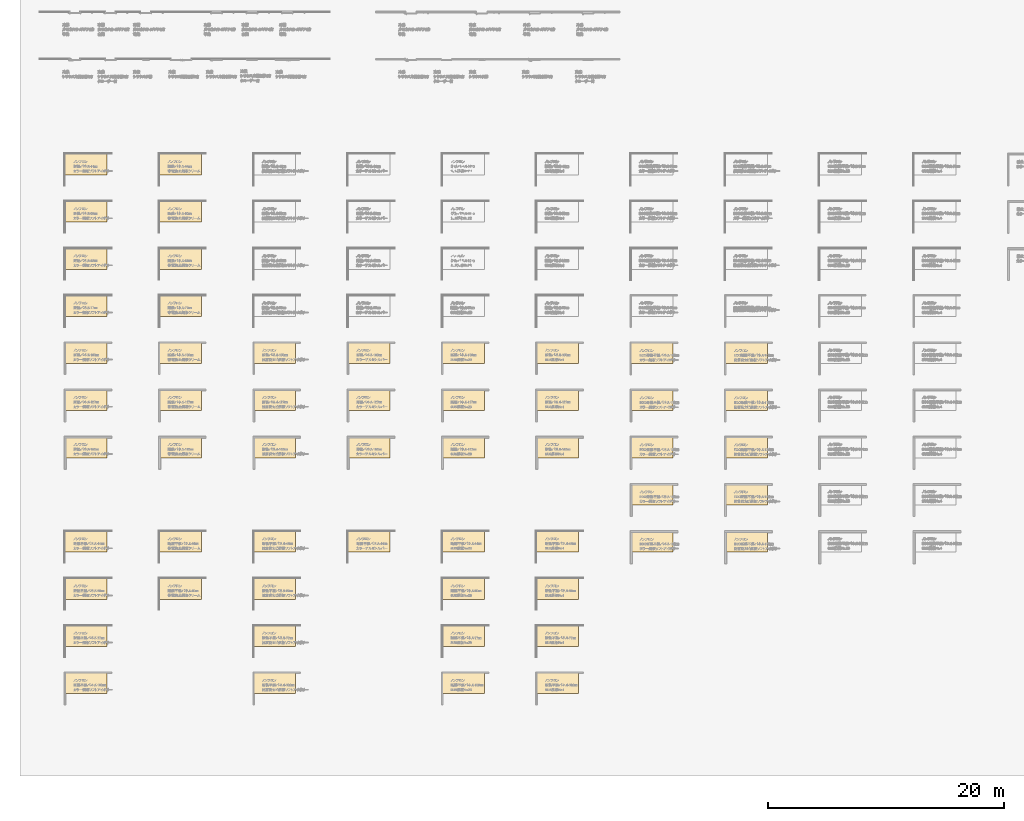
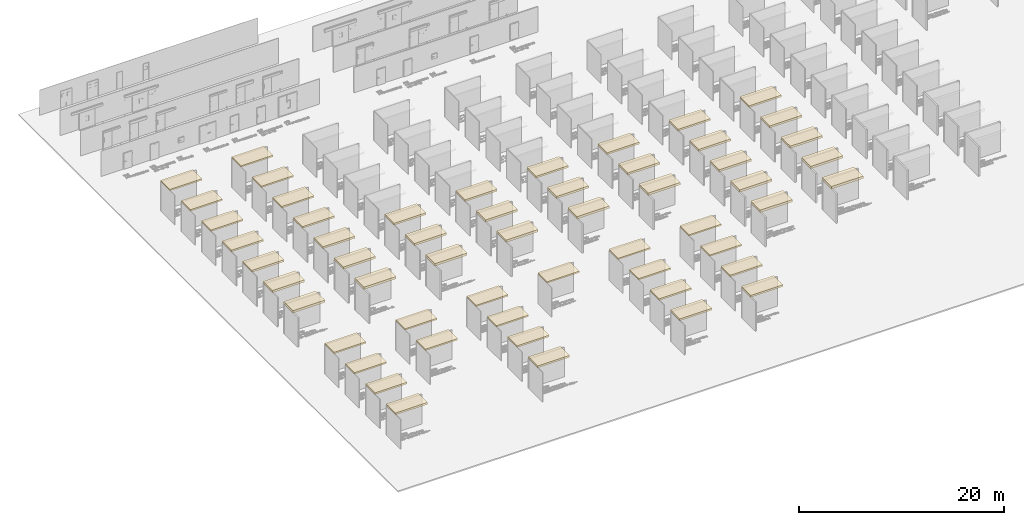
# One storey, part 8 of 16: 55 coverings.
"""IFC2X3 building model written with IfcOpenShell, lengths in millimetres."""

from ifc_helpers import new_model, entity, si_unit, converted_unit, derived_unit, direction, frame, frame_2d, origin, origin_2d_with_axis, place, context, subcontext, project, spatial, rectangle, extrude, material, layer, layer_set, layer_usage, type_object, element, save


model = new_model("IFC2X3")

# Units and contexts
model_context = context("Model", 3, precision=0.01, world=origin(), true_north=direction((6.123031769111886e-17, 1.0)))
body_context = subcontext(model_context, "Body", "Model", "MODEL_VIEW")
ifc_project = project(units=[si_unit("LENGTHUNIT", "METRE", prefix="MILLI"), si_unit("AREAUNIT", "SQUARE_METRE"), si_unit("VOLUMEUNIT", "CUBIC_METRE"), converted_unit("PLANEANGLEUNIT", "DEGREE", entity("IfcRatioMeasure", 0.017453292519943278), si_unit("PLANEANGLEUNIT", "RADIAN"), dimensions=[0, 0, 0, 0, 0, 0, 0]), si_unit("MASSUNIT", "GRAM", prefix="KILO"), derived_unit("MASSDENSITYUNIT", [(si_unit("MASSUNIT", "GRAM", prefix="KILO"), 1), (si_unit("LENGTHUNIT", "METRE"), -3)]), derived_unit("IONCONCENTRATIONUNIT", [(si_unit("MASSUNIT", "GRAM", prefix="KILO"), 1), (si_unit("LENGTHUNIT", "METRE"), -3)]), derived_unit("MOMENTOFINERTIAUNIT", [(si_unit("LENGTHUNIT", "METRE"), 4)]), si_unit("TIMEUNIT", "SECOND"), si_unit("FREQUENCYUNIT", "HERTZ"), si_unit("THERMODYNAMICTEMPERATUREUNIT", "DEGREE_CELSIUS"), derived_unit("THERMALTRANSMITTANCEUNIT", [(si_unit("MASSUNIT", "GRAM", prefix="KILO"), 1), (si_unit("THERMODYNAMICTEMPERATUREUNIT", "KELVIN"), -1), (si_unit("TIMEUNIT", "SECOND"), -3)]), derived_unit("THERMALCONDUCTANCEUNIT", [(si_unit("MASSUNIT", "GRAM", prefix="KILO"), 1), (si_unit("THERMODYNAMICTEMPERATUREUNIT", "KELVIN"), -1), (si_unit("TIMEUNIT", "SECOND"), -3), (si_unit("LENGTHUNIT", "METRE"), 1)]), derived_unit("VOLUMETRICFLOWRATEUNIT", [(si_unit("LENGTHUNIT", "METRE"), 3), (si_unit("TIMEUNIT", "SECOND"), -1)]), derived_unit("MASSFLOWRATEUNIT", [(si_unit("MASSUNIT", "GRAM", prefix="KILO"), 1), (si_unit("TIMEUNIT", "SECOND"), -1)]), derived_unit("ROTATIONALFREQUENCYUNIT", [(si_unit("TIMEUNIT", "SECOND"), -1)]), si_unit("ELECTRICCURRENTUNIT", "AMPERE"), si_unit("ELECTRICVOLTAGEUNIT", "VOLT"), si_unit("POWERUNIT", "WATT"), si_unit("FORCEUNIT", "NEWTON", prefix="KILO"), si_unit("ILLUMINANCEUNIT", "LUX"), si_unit("LUMINOUSFLUXUNIT", "LUMEN"), si_unit("LUMINOUSINTENSITYUNIT", "CANDELA"), derived_unit("USERDEFINED", [(si_unit("MASSUNIT", "GRAM", prefix="KILO"), -1), (si_unit("LENGTHUNIT", "METRE"), -2), (si_unit("TIMEUNIT", "SECOND"), 3), (si_unit("LUMINOUSFLUXUNIT", "LUMEN"), 1)]), derived_unit("USERDEFINED", [(si_unit("MASSUNIT", "GRAM", prefix="KILO"), 1), (si_unit("TIMEUNIT", "SECOND"), -3), (si_unit("LENGTHUNIT", "METRE"), 3), (si_unit("ELECTRICCURRENTUNIT", "AMPERE"), -2)]), derived_unit("SOUNDPOWERUNIT", [(si_unit("MASSUNIT", "GRAM", prefix="KILO"), 1), (si_unit("TIMEUNIT", "SECOND"), -3), (si_unit("LENGTHUNIT", "METRE"), 2)]), derived_unit("SOUNDPRESSUREUNIT", [(si_unit("MASSUNIT", "GRAM", prefix="KILO"), 1), (si_unit("LENGTHUNIT", "METRE"), -1), (si_unit("TIMEUNIT", "SECOND"), -2)]), derived_unit("LINEARVELOCITYUNIT", [(si_unit("LENGTHUNIT", "METRE"), 1), (si_unit("TIMEUNIT", "SECOND"), -1)]), si_unit("PRESSUREUNIT", "PASCAL"), derived_unit("USERDEFINED", [(si_unit("MASSUNIT", "GRAM", prefix="KILO"), 1), (si_unit("LENGTHUNIT", "METRE"), -2), (si_unit("TIMEUNIT", "SECOND"), -2)]), derived_unit("LINEARFORCEUNIT", [(si_unit("MASSUNIT", "GRAM", prefix="KILO"), 1), (si_unit("TIMEUNIT", "SECOND"), -2)]), derived_unit("PLANARFORCEUNIT", [(si_unit("MASSUNIT", "GRAM", prefix="KILO"), 1), (si_unit("LENGTHUNIT", "METRE"), -1), (si_unit("TIMEUNIT", "SECOND"), -2)]), derived_unit("SPECIFICHEATCAPACITYUNIT", [(si_unit("THERMODYNAMICTEMPERATUREUNIT", "KELVIN"), -1), (si_unit("LENGTHUNIT", "METRE"), 2), (si_unit("TIMEUNIT", "SECOND"), -2)]), derived_unit("HEATINGVALUEUNIT", [(si_unit("LENGTHUNIT", "METRE"), 2), (si_unit("TIMEUNIT", "SECOND"), -2)]), derived_unit("VAPORPERMEABILITYUNIT", [(si_unit("LENGTHUNIT", "METRE"), -1), (si_unit("TIMEUNIT", "SECOND"), 1)]), derived_unit("DYNAMICVISCOSITYUNIT", [(si_unit("MASSUNIT", "GRAM", prefix="KILO"), 1), (si_unit("TIMEUNIT", "SECOND"), -1), (si_unit("LENGTHUNIT", "METRE"), -1)]), derived_unit("THERMALEXPANSIONCOEFFICIENTUNIT", [(si_unit("THERMODYNAMICTEMPERATUREUNIT", "KELVIN"), -1)]), derived_unit("MODULUSOFELASTICITYUNIT", [(si_unit("MASSUNIT", "GRAM", prefix="KILO"), 1), (si_unit("LENGTHUNIT", "METRE"), -1), (si_unit("TIMEUNIT", "SECOND"), -2)]), derived_unit("ISOTHERMALMOISTURECAPACITYUNIT", [(si_unit("LENGTHUNIT", "METRE"), 3), (si_unit("MASSUNIT", "GRAM", prefix="KILO"), -1)]), derived_unit("MOISTUREDIFFUSIVITYUNIT", [(si_unit("TIMEUNIT", "SECOND"), -1), (si_unit("LENGTHUNIT", "METRE"), 2)])], contexts=[model_context])

# Site, building, storey
site_placement = place(None, origin())
site = spatial("IfcSite", under=ifc_project, at=site_placement, Name="Default", CompositionType="ELEMENT")
building_placement = place(site_placement, origin())
building = spatial("IfcBuilding", under=site, at=building_placement, CompositionType="ELEMENT")
storey_placement = place(building_placement, frame((0.0, 0.0, 500.0)))
storey = spatial("IfcBuildingStorey", under=building, at=storey_placement, Name="レベル 1", CompositionType="ELEMENT", Elevation=500.00000000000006)

# Coverings
ifc_material_1 = material(Name="<Unnamed>")
ifc_layer_1 = layer(ifc_material_1, 125.00000000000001)
ifc_material_2 = material(Name="g-p_硬質ウレタンフォーム")
ifc_layer_2 = layer(ifc_material_2, 44.0)
ifc_layer_set_1 = layer_set([ifc_layer_1, ifc_layer_2], Name="天井:g-p_断熱パネルt44+天井下地材t125_900x2700")
ifc_layer_usage_1 = layer_usage(ifc_layer_set_1, "AXIS3", "POSITIVE", 0.0)
covering_type_1 = type_object("IfcCoveringType", Name="天井:g-p_断熱パネルt44+天井下地材t125_900x2700", PredefinedType="CEILING")
covering_1_placement = place(storey_placement, origin())
element("IfcCovering", 1, at=covering_1_placement, inside=storey, type_object=covering_type_1, material=ifc_layer_usage_1, Name="天井:g-p_断熱パネルt44+天井下地材t125_900x2700", ObjectType="天井:g-p_断熱パネルt44+天井下地材t125_900x2700", PredefinedType="CEILING", context=body_context, shape_type="SweptSolid", body=[
    extrude(rectangle(XDim=3621.999999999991, YDim=1822.0000000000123, at=frame_2d((0.0, -1.0800249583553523e-12), x_axis=(1.0, 0.0))), frame((-22189.0, 11089.0, 3500.0)), (0.0, 0.0, 1.0), 169.00000000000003),
])
covering_2_placement = place(storey_placement, origin())
element("IfcCovering", 2, at=covering_2_placement, inside=storey, type_object=covering_type_1, material=ifc_layer_usage_1, Name="天井:g-p_断熱パネルt44+天井下地材t125_900x2700", ObjectType="天井:g-p_断熱パネルt44+天井下地材t125_900x2700", PredefinedType="CEILING", context=body_context, shape_type="SweptSolid", body=[
    extrude(rectangle(XDim=3621.9999999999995, YDim=1822.0000000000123, at=frame_2d((0.0, -1.0800249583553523e-12), x_axis=(1.0, 0.0))), frame((-14189.0, 11089.0, 3500.0)), (0.0, 0.0, 1.0), 169.00000000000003),
])
ifc_layer_3 = layer(ifc_material_1, 125.00000000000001)
ifc_layer_4 = layer(ifc_material_2, 50.0)
ifc_layer_set_2 = layer_set([ifc_layer_3, ifc_layer_4], Name="天井:g-p_断熱パネルt50+天井下地材t125_900x2700")
ifc_layer_usage_2 = layer_usage(ifc_layer_set_2, "AXIS3", "POSITIVE", 0.0)
covering_type_2 = type_object("IfcCoveringType", Name="天井:g-p_断熱パネルt50+天井下地材t125_900x2700", PredefinedType="CEILING")
covering_3_placement = place(storey_placement, origin())
element("IfcCovering", 3, at=covering_3_placement, inside=storey, type_object=covering_type_2, material=ifc_layer_usage_2, Name="天井:g-p_断熱パネルt50+天井下地材t125_900x2700", ObjectType="天井:g-p_断熱パネルt50+天井下地材t125_900x2700", PredefinedType="CEILING", context=body_context, shape_type="SweptSolid", body=[
    extrude(rectangle(XDim=3621.999999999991, YDim=1822.0000000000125, at=origin_2d_with_axis()), frame((-22189.0, 7089.0, 3500.0)), (0.0, 0.0, 1.0), 175.00000000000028),
])
covering_4_placement = place(storey_placement, origin())
element("IfcCovering", 4, at=covering_4_placement, inside=storey, type_object=covering_type_2, material=ifc_layer_usage_2, Name="天井:g-p_断熱パネルt50+天井下地材t125_900x2700", ObjectType="天井:g-p_断熱パネルt50+天井下地材t125_900x2700", PredefinedType="CEILING", context=body_context, shape_type="SweptSolid", body=[
    extrude(rectangle(XDim=3622.0000000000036, YDim=1822.0000000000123, at=frame_2d((-2.1600499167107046e-12, -2.6716406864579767e-12), x_axis=(1.0, 0.0))), frame((-14189.0, 7089.0, 3500.0)), (0.0, 0.0, 1.0), 175.00000000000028),
])
ifc_layer_5 = layer(ifc_material_1, 125.00000000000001)
ifc_layer_6 = layer(ifc_material_2, 62.0)
ifc_layer_set_3 = layer_set([ifc_layer_5, ifc_layer_6], Name="天井:g-p_断熱パネルt62+天井下地材t125_900x2700")
ifc_layer_usage_3 = layer_usage(ifc_layer_set_3, "AXIS3", "POSITIVE", 0.0)
covering_type_3 = type_object("IfcCoveringType", Name="天井:g-p_断熱パネルt62+天井下地材t125_900x2700", PredefinedType="CEILING")
covering_5_placement = place(storey_placement, origin())
element("IfcCovering", 5, at=covering_5_placement, inside=storey, type_object=covering_type_3, material=ifc_layer_usage_3, Name="天井:g-p_断熱パネルt62+天井下地材t125_900x2700", ObjectType="天井:g-p_断熱パネルt62+天井下地材t125_900x2700", PredefinedType="CEILING", context=body_context, shape_type="SweptSolid", body=[
    extrude(rectangle(XDim=3621.999999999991, YDim=1822.0000000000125, at=origin_2d_with_axis()), frame((-22189.0, 3089.0, 3500.0)), (0.0, 0.0, 1.0), 186.99999999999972),
])
covering_6_placement = place(storey_placement, origin())
element("IfcCovering", 6, at=covering_6_placement, inside=storey, type_object=covering_type_3, material=ifc_layer_usage_3, Name="天井:g-p_断熱パネルt62+天井下地材t125_900x2700", ObjectType="天井:g-p_断熱パネルt62+天井下地材t125_900x2700", PredefinedType="CEILING", context=body_context, shape_type="SweptSolid", body=[
    extrude(rectangle(XDim=3622.0000000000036, YDim=1822.0000000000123, at=frame_2d((-2.1600499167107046e-12, -2.9558577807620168e-12), x_axis=(1.0, 0.0))), frame((-14189.0, 3089.0, 3500.0)), (0.0, 0.0, 1.0), 186.99999999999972),
])
ifc_layer_7 = layer(ifc_material_1, 125.00000000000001)
ifc_layer_8 = layer(ifc_material_2, 77.0)
ifc_layer_set_4 = layer_set([ifc_layer_7, ifc_layer_8], Name="天井:g-p_断熱パネルt77+天井下地材t125_900x2700")
ifc_layer_usage_4 = layer_usage(ifc_layer_set_4, "AXIS3", "POSITIVE", 0.0)
covering_type_4 = type_object("IfcCoveringType", Name="天井:g-p_断熱パネルt77+天井下地材t125_900x2700", PredefinedType="CEILING")
covering_7_placement = place(storey_placement, origin())
element("IfcCovering", 7, at=covering_7_placement, inside=storey, type_object=covering_type_4, material=ifc_layer_usage_4, Name="天井:g-p_断熱パネルt77+天井下地材t125_900x2700", ObjectType="天井:g-p_断熱パネルt77+天井下地材t125_900x2700", PredefinedType="CEILING", context=body_context, shape_type="SweptSolid", body=[
    extrude(rectangle(XDim=3621.999999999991, YDim=1822.0000000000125, at=origin_2d_with_axis()), frame((-22189.0, -911.0, 3500.0)), (0.0, 0.0, 1.0), 202.0000000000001),
])
covering_8_placement = place(storey_placement, origin())
element("IfcCovering", 8, at=covering_8_placement, inside=storey, type_object=covering_type_4, material=ifc_layer_usage_4, Name="天井:g-p_断熱パネルt77+天井下地材t125_900x2700", ObjectType="天井:g-p_断熱パネルt77+天井下地材t125_900x2700", PredefinedType="CEILING", context=body_context, shape_type="SweptSolid", body=[
    extrude(rectangle(XDim=3622.000000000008, YDim=1822.0000000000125, at=frame_2d((-2.1600499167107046e-12, -3.0127011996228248e-12), x_axis=(1.0, 0.0))), frame((-14189.0, -911.0, 3500.0)), (0.0, 0.0, 1.0), 202.0000000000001),
])
ifc_layer_9 = layer(ifc_material_1, 125.00000000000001)
ifc_layer_10 = layer(ifc_material_2, 100.0)
ifc_layer_set_5 = layer_set([ifc_layer_9, ifc_layer_10], Name="天井:g-p_断熱パネルt100+天井下地材t125_900x2700")
ifc_layer_usage_5 = layer_usage(ifc_layer_set_5, "AXIS3", "POSITIVE", 0.0)
covering_type_5 = type_object("IfcCoveringType", Name="天井:g-p_断熱パネルt100+天井下地材t125_900x2700", PredefinedType="CEILING")
covering_9_placement = place(storey_placement, origin())
element("IfcCovering", 9, at=covering_9_placement, inside=storey, type_object=covering_type_5, material=ifc_layer_usage_5, Name="天井:g-p_断熱パネルt100+天井下地材t125_900x2700", ObjectType="天井:g-p_断熱パネルt100+天井下地材t125_900x2700", PredefinedType="CEILING", context=body_context, shape_type="SweptSolid", body=[
    extrude(rectangle(XDim=3621.999999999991, YDim=1822.0000000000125, at=origin_2d_with_axis()), frame((-22189.0, -4911.0, 3500.0)), (0.0, 0.0, 1.0), 224.99999999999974),
])
covering_10_placement = place(storey_placement, origin())
element("IfcCovering", 10, at=covering_10_placement, inside=storey, type_object=covering_type_5, material=ifc_layer_usage_5, Name="天井:g-p_断熱パネルt100+天井下地材t125_900x2700", ObjectType="天井:g-p_断熱パネルt100+天井下地材t125_900x2700", PredefinedType="CEILING", context=body_context, shape_type="SweptSolid", body=[
    extrude(rectangle(XDim=3622.0000000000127, YDim=1822.0000000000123, at=frame_2d((-2.1600499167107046e-12, -2.9558577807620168e-12), x_axis=(1.0, 0.0))), frame((-14189.0, -4911.0, 3500.0)), (0.0, 0.0, 1.0), 224.99999999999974),
])
covering_11_placement = place(storey_placement, origin())
element("IfcCovering", 11, at=covering_11_placement, inside=storey, type_object=covering_type_5, material=ifc_layer_usage_5, Name="天井:g-p_断熱パネルt100+天井下地材t125_900x2700", ObjectType="天井:g-p_断熱パネルt100+天井下地材t125_900x2700", PredefinedType="CEILING", context=body_context, shape_type="SweptSolid", body=[
    extrude(rectangle(XDim=3622.0000000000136, YDim=1822.0000000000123, at=frame_2d((-2.7284841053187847e-12, -2.9558577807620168e-12), x_axis=(1.0, 0.0))), frame((-6189.0, -4911.0, 3500.0)), (0.0, 0.0, 1.0), 224.99999999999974),
])
covering_12_placement = place(storey_placement, origin())
element("IfcCovering", 12, at=covering_12_placement, inside=storey, type_object=covering_type_5, material=ifc_layer_usage_5, Name="天井:g-p_断熱パネルt100+天井下地材t125_900x2700", ObjectType="天井:g-p_断熱パネルt100+天井下地材t125_900x2700", PredefinedType="CEILING", context=body_context, shape_type="SweptSolid", body=[
    extrude(rectangle(XDim=3622.000000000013, YDim=1822.0000000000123, at=frame_2d((-2.5011104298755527e-12, -2.9558577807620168e-12), x_axis=(1.0, 0.0))), frame((1811.0, -4911.0, 3500.0)), (0.0, 0.0, 1.0), 224.99999999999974),
])
covering_13_placement = place(storey_placement, origin())
element("IfcCovering", 13, at=covering_13_placement, inside=storey, type_object=covering_type_5, material=ifc_layer_usage_5, Name="天井:g-p_断熱パネルt100+天井下地材t125_900x2700", ObjectType="天井:g-p_断熱パネルt100+天井下地材t125_900x2700", PredefinedType="CEILING", context=body_context, shape_type="SweptSolid", body=[
    extrude(rectangle(XDim=3622.0000000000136, YDim=1822.0000000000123, at=frame_2d((-2.7284841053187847e-12, -2.9558577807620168e-12), x_axis=(1.0, 0.0))), frame((9811.0, -4911.0, 3500.0)), (0.0, 0.0, 1.0), 224.99999999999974),
])
covering_14_placement = place(storey_placement, origin())
element("IfcCovering", 14, at=covering_14_placement, inside=storey, type_object=covering_type_5, material=ifc_layer_usage_5, Name="天井:g-p_断熱パネルt100+天井下地材t125_900x2700", ObjectType="天井:g-p_断熱パネルt100+天井下地材t125_900x2700", PredefinedType="CEILING", context=body_context, shape_type="SweptSolid", body=[
    extrude(rectangle(XDim=3622.0000000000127, YDim=1822.0000000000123, at=frame_2d((0.0, -2.9558577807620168e-12), x_axis=(1.0, 0.0))), frame((17811.0, -4911.0, 3500.0)), (0.0, 0.0, 1.0), 224.99999999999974),
])
ifc_layer_11 = layer(ifc_material_1, 125.00000000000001)
ifc_layer_12 = layer(ifc_material_2, 127.00000000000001)
ifc_layer_set_6 = layer_set([ifc_layer_11, ifc_layer_12], Name="天井:g-p_断熱パネルt127+天井下地材t125_900x2700")
ifc_layer_usage_6 = layer_usage(ifc_layer_set_6, "AXIS3", "POSITIVE", 0.0)
covering_type_6 = type_object("IfcCoveringType", Name="天井:g-p_断熱パネルt127+天井下地材t125_900x2700", PredefinedType="CEILING")
covering_15_placement = place(storey_placement, origin())
element("IfcCovering", 15, at=covering_15_placement, inside=storey, type_object=covering_type_6, material=ifc_layer_usage_6, Name="天井:g-p_断熱パネルt127+天井下地材t125_900x2700", ObjectType="天井:g-p_断熱パネルt127+天井下地材t125_900x2700", PredefinedType="CEILING", context=body_context, shape_type="SweptSolid", body=[
    extrude(rectangle(XDim=3621.999999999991, YDim=1822.0000000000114, at=frame_2d((0.0, 5.684341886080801e-13), x_axis=(1.0, 0.0))), frame((-22189.0, -8911.0, 3500.0)), (0.0, 0.0, 1.0), 252.0000000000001),
])
covering_16_placement = place(storey_placement, origin())
element("IfcCovering", 16, at=covering_16_placement, inside=storey, type_object=covering_type_6, material=ifc_layer_usage_6, Name="天井:g-p_断熱パネルt127+天井下地材t125_900x2700", ObjectType="天井:g-p_断熱パネルt127+天井下地材t125_900x2700", PredefinedType="CEILING", context=body_context, shape_type="SweptSolid", body=[
    extrude(rectangle(XDim=3622.0000000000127, YDim=1822.0000000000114, at=frame_2d((-2.1600499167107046e-12, -3.240074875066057e-12), x_axis=(1.0, 0.0))), frame((-14189.0, -8911.0, 3500.0)), (0.0, 0.0, 1.0), 252.0000000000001),
])
covering_17_placement = place(storey_placement, origin())
element("IfcCovering", 17, at=covering_17_placement, inside=storey, type_object=covering_type_6, material=ifc_layer_usage_6, Name="天井:g-p_断熱パネルt127+天井下地材t125_900x2700", ObjectType="天井:g-p_断熱パネルt127+天井下地材t125_900x2700", PredefinedType="CEILING", context=body_context, shape_type="SweptSolid", body=[
    extrude(rectangle(XDim=3622.0000000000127, YDim=1822.0000000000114, at=frame_2d((-2.1600499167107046e-12, -3.240074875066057e-12), x_axis=(1.0, 0.0))), frame((-6189.0, -8911.0, 3500.0)), (0.0, 0.0, 1.0), 252.0000000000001),
])
covering_18_placement = place(storey_placement, origin())
element("IfcCovering", 18, at=covering_18_placement, inside=storey, type_object=covering_type_6, material=ifc_layer_usage_6, Name="天井:g-p_断熱パネルt127+天井下地材t125_900x2700", ObjectType="天井:g-p_断熱パネルt127+天井下地材t125_900x2700", PredefinedType="CEILING", context=body_context, shape_type="SweptSolid", body=[
    extrude(rectangle(XDim=3622.000000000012, YDim=1822.0000000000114, at=frame_2d((-1.9326762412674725e-12, -3.240074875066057e-12), x_axis=(1.0, 0.0))), frame((1811.0, -8911.0, 3500.0)), (0.0, 0.0, 1.0), 252.0000000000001),
])
covering_19_placement = place(storey_placement, origin())
element("IfcCovering", 19, at=covering_19_placement, inside=storey, type_object=covering_type_6, material=ifc_layer_usage_6, Name="天井:g-p_断熱パネルt127+天井下地材t125_900x2700", ObjectType="天井:g-p_断熱パネルt127+天井下地材t125_900x2700", PredefinedType="CEILING", context=body_context, shape_type="SweptSolid", body=[
    extrude(rectangle(XDim=3622.0000000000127, YDim=1822.0000000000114, at=frame_2d((-2.1600499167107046e-12, -3.240074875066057e-12), x_axis=(1.0, 0.0))), frame((9811.0, -8911.0, 3500.0)), (0.0, 0.0, 1.0), 252.0000000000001),
])
covering_20_placement = place(storey_placement, origin())
element("IfcCovering", 20, at=covering_20_placement, inside=storey, type_object=covering_type_6, material=ifc_layer_usage_6, Name="天井:g-p_断熱パネルt127+天井下地材t125_900x2700", ObjectType="天井:g-p_断熱パネルt127+天井下地材t125_900x2700", PredefinedType="CEILING", context=body_context, shape_type="SweptSolid", body=[
    extrude(rectangle(XDim=3622.0000000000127, YDim=1822.0000000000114, at=frame_2d((-2.1600499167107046e-12, -3.240074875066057e-12), x_axis=(1.0, 0.0))), frame((17811.0, -8911.0, 3500.0)), (0.0, 0.0, 1.0), 252.0000000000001),
])
ifc_layer_13 = layer(ifc_material_1, 125.00000000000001)
ifc_layer_14 = layer(ifc_material_2, 152.0)
ifc_layer_set_7 = layer_set([ifc_layer_13, ifc_layer_14], Name="天井:g-p_断熱パネルt152+天井下地材t125_900x2700")
ifc_layer_usage_7 = layer_usage(ifc_layer_set_7, "AXIS3", "POSITIVE", 0.0)
covering_type_7 = type_object("IfcCoveringType", Name="天井:g-p_断熱パネルt152+天井下地材t125_900x2700", PredefinedType="CEILING")
covering_21_placement = place(storey_placement, origin())
element("IfcCovering", 21, at=covering_21_placement, inside=storey, type_object=covering_type_7, material=ifc_layer_usage_7, Name="天井:g-p_断熱パネルt152+天井下地材t125_900x2700", ObjectType="天井:g-p_断熱パネルt152+天井下地材t125_900x2700", PredefinedType="CEILING", context=body_context, shape_type="SweptSolid", body=[
    extrude(rectangle(XDim=3621.999999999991, YDim=1822.0000000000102, at=origin_2d_with_axis()), frame((-22189.0, -12911.0, 3500.0)), (0.0, 0.0, 1.0), 276.99999999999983),
])
covering_22_placement = place(storey_placement, origin())
element("IfcCovering", 22, at=covering_22_placement, inside=storey, type_object=covering_type_7, material=ifc_layer_usage_7, Name="天井:g-p_断熱パネルt152+天井下地材t125_900x2700", ObjectType="天井:g-p_断熱パネルt152+天井下地材t125_900x2700", PredefinedType="CEILING", context=body_context, shape_type="SweptSolid", body=[
    extrude(rectangle(XDim=3622.000000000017, YDim=1822.0000000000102, at=frame_2d((-4.320099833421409e-12, -2.1600499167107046e-12), x_axis=(1.0, 0.0))), frame((-14189.0, -12911.0, 3500.0)), (0.0, 0.0, 1.0), 276.99999999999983),
])
covering_23_placement = place(storey_placement, origin())
element("IfcCovering", 23, at=covering_23_placement, inside=storey, type_object=covering_type_7, material=ifc_layer_usage_7, Name="天井:g-p_断熱パネルt152+天井下地材t125_900x2700", ObjectType="天井:g-p_断熱パネルt152+天井下地材t125_900x2700", PredefinedType="CEILING", context=body_context, shape_type="SweptSolid", body=[
    extrude(rectangle(XDim=3622.000000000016, YDim=1822.0000000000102, at=frame_2d((-1.5916157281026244e-12, -2.1600499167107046e-12), x_axis=(1.0, 0.0))), frame((-6189.0, -12911.0, 3500.0)), (0.0, 0.0, 1.0), 276.99999999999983),
])
covering_24_placement = place(storey_placement, origin())
element("IfcCovering", 24, at=covering_24_placement, inside=storey, type_object=covering_type_7, material=ifc_layer_usage_7, Name="天井:g-p_断熱パネルt152+天井下地材t125_900x2700", ObjectType="天井:g-p_断熱パネルt152+天井下地材t125_900x2700", PredefinedType="CEILING", context=body_context, shape_type="SweptSolid", body=[
    extrude(rectangle(XDim=3622.0000000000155, YDim=1822.0000000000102, at=frame_2d((-1.9326762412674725e-12, -2.1600499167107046e-12), x_axis=(1.0, 0.0))), frame((1811.0, -12911.0, 3500.0)), (0.0, 0.0, 1.0), 276.99999999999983),
])
covering_25_placement = place(storey_placement, origin())
element("IfcCovering", 25, at=covering_25_placement, inside=storey, type_object=covering_type_7, material=ifc_layer_usage_7, Name="天井:g-p_断熱パネルt152+天井下地材t125_900x2700", ObjectType="天井:g-p_断熱パネルt152+天井下地材t125_900x2700", PredefinedType="CEILING", context=body_context, shape_type="SweptSolid", body=[
    extrude(rectangle(XDim=3622.000000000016, YDim=1822.0000000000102, at=frame_2d((-1.5916157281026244e-12, -2.1600499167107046e-12), x_axis=(1.0, 0.0))), frame((9811.0, -12911.0, 3500.0)), (0.0, 0.0, 1.0), 276.99999999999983),
])
covering_26_placement = place(storey_placement, origin())
element("IfcCovering", 26, at=covering_26_placement, inside=storey, type_object=covering_type_7, material=ifc_layer_usage_7, Name="天井:g-p_断熱パネルt152+天井下地材t125_900x2700", ObjectType="天井:g-p_断熱パネルt152+天井下地材t125_900x2700", PredefinedType="CEILING", context=body_context, shape_type="SweptSolid", body=[
    extrude(rectangle(XDim=3622.000000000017, YDim=1822.0000000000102, at=frame_2d((0.0, -2.1600499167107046e-12), x_axis=(1.0, 0.0))), frame((17811.0, -12911.0, 3500.0)), (0.0, 0.0, 1.0), 276.99999999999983),
])
ifc_layer_15 = layer(ifc_material_1, 125.00000000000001)
ifc_material_3 = material(Name="g-p_硬質イソシアヌレートフォーム")
ifc_layer_16 = layer(ifc_material_3, 44.0)
ifc_layer_set_8 = layer_set([ifc_layer_15, ifc_layer_16], Name="天井:g-p_不燃断熱パネルt44+天井下地材t125_900x2700")
ifc_layer_usage_8 = layer_usage(ifc_layer_set_8, "AXIS3", "POSITIVE", 0.0)
covering_type_8 = type_object("IfcCoveringType", Name="天井:g-p_不燃断熱パネルt44+天井下地材t125_900x2700", PredefinedType="CEILING")
covering_27_placement = place(storey_placement, origin())
element("IfcCovering", 27, at=covering_27_placement, inside=storey, type_object=covering_type_8, material=ifc_layer_usage_8, Name="天井:g-p_不燃断熱パネルt44+天井下地材t125_900x2700", ObjectType="天井:g-p_不燃断熱パネルt44+天井下地材t125_900x2700", PredefinedType="CEILING", context=body_context, shape_type="SweptSolid", body=[
    extrude(rectangle(XDim=3621.999999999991, YDim=1822.0000000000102, at=origin_2d_with_axis()), frame((-22189.0, -20911.0, 3500.0)), (0.0, 0.0, 1.0), 169.00000000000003),
])
covering_28_placement = place(storey_placement, origin())
element("IfcCovering", 28, at=covering_28_placement, inside=storey, type_object=covering_type_8, material=ifc_layer_usage_8, Name="天井:g-p_不燃断熱パネルt44+天井下地材t125_900x2700", ObjectType="天井:g-p_不燃断熱パネルt44+天井下地材t125_900x2700", PredefinedType="CEILING", context=body_context, shape_type="SweptSolid", body=[
    extrude(rectangle(XDim=3622.0000000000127, YDim=1822.0000000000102, at=frame_2d((-2.1600499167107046e-12, -4.320099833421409e-12), x_axis=(1.0, 0.0))), frame((-14189.0, -20911.0, 3500.0)), (0.0, 0.0, 1.0), 169.00000000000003),
])
covering_29_placement = place(storey_placement, origin())
element("IfcCovering", 29, at=covering_29_placement, inside=storey, type_object=covering_type_8, material=ifc_layer_usage_8, Name="天井:g-p_不燃断熱パネルt44+天井下地材t125_900x2700", ObjectType="天井:g-p_不燃断熱パネルt44+天井下地材t125_900x2700", PredefinedType="CEILING", context=body_context, shape_type="SweptSolid", body=[
    extrude(rectangle(XDim=3622.0000000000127, YDim=1822.0000000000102, at=frame_2d((-2.1600499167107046e-12, -4.320099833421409e-12), x_axis=(1.0, 0.0))), frame((-6189.0, -20911.0, 3500.0)), (0.0, 0.0, 1.0), 169.00000000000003),
])
covering_30_placement = place(storey_placement, origin())
element("IfcCovering", 30, at=covering_30_placement, inside=storey, type_object=covering_type_8, material=ifc_layer_usage_8, Name="天井:g-p_不燃断熱パネルt44+天井下地材t125_900x2700", ObjectType="天井:g-p_不燃断熱パネルt44+天井下地材t125_900x2700", PredefinedType="CEILING", context=body_context, shape_type="SweptSolid", body=[
    extrude(rectangle(XDim=3622.000000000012, YDim=1822.0000000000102, at=frame_2d((-1.9326762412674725e-12, -4.320099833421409e-12), x_axis=(1.0, 0.0))), frame((1811.0, -20911.0, 3500.0)), (0.0, 0.0, 1.0), 169.00000000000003),
])
covering_31_placement = place(storey_placement, origin())
element("IfcCovering", 31, at=covering_31_placement, inside=storey, type_object=covering_type_8, material=ifc_layer_usage_8, Name="天井:g-p_不燃断熱パネルt44+天井下地材t125_900x2700", ObjectType="天井:g-p_不燃断熱パネルt44+天井下地材t125_900x2700", PredefinedType="CEILING", context=body_context, shape_type="SweptSolid", body=[
    extrude(rectangle(XDim=3622.0000000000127, YDim=1822.0000000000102, at=frame_2d((-2.1600499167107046e-12, -4.320099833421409e-12), x_axis=(1.0, 0.0))), frame((9811.0, -20911.0, 3500.0)), (0.0, 0.0, 1.0), 169.00000000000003),
])
covering_32_placement = place(storey_placement, origin())
element("IfcCovering", 32, at=covering_32_placement, inside=storey, type_object=covering_type_8, material=ifc_layer_usage_8, Name="天井:g-p_不燃断熱パネルt44+天井下地材t125_900x2700", ObjectType="天井:g-p_不燃断熱パネルt44+天井下地材t125_900x2700", PredefinedType="CEILING", context=body_context, shape_type="SweptSolid", body=[
    extrude(rectangle(XDim=3622.0000000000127, YDim=1822.0000000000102, at=frame_2d((-2.1600499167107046e-12, -4.320099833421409e-12), x_axis=(1.0, 0.0))), frame((17811.0, -20911.0, 3500.0)), (0.0, 0.0, 1.0), 169.00000000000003),
])
ifc_layer_17 = layer(ifc_material_1, 125.00000000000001)
ifc_layer_18 = layer(ifc_material_3, 50.0)
ifc_layer_set_9 = layer_set([ifc_layer_17, ifc_layer_18], Name="天井:g-p_不燃断熱パネルt50+天井下地材t125_900x2700")
ifc_layer_usage_9 = layer_usage(ifc_layer_set_9, "AXIS3", "POSITIVE", 0.0)
covering_type_9 = type_object("IfcCoveringType", Name="天井:g-p_不燃断熱パネルt50+天井下地材t125_900x2700", PredefinedType="CEILING")
covering_33_placement = place(storey_placement, origin())
element("IfcCovering", 33, at=covering_33_placement, inside=storey, type_object=covering_type_9, material=ifc_layer_usage_9, Name="天井:g-p_不燃断熱パネルt50+天井下地材t125_900x2700", ObjectType="天井:g-p_不燃断熱パネルt50+天井下地材t125_900x2700", PredefinedType="CEILING", context=body_context, shape_type="SweptSolid", body=[
    extrude(rectangle(XDim=3621.999999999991, YDim=1822.0000000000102, at=origin_2d_with_axis()), frame((-22189.0, -24911.0, 3500.0)), (0.0, 0.0, 1.0), 175.00000000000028),
])
covering_34_placement = place(storey_placement, origin())
element("IfcCovering", 34, at=covering_34_placement, inside=storey, type_object=covering_type_9, material=ifc_layer_usage_9, Name="天井:g-p_不燃断熱パネルt50+天井下地材t125_900x2700", ObjectType="天井:g-p_不燃断熱パネルt50+天井下地材t125_900x2700", PredefinedType="CEILING", context=body_context, shape_type="SweptSolid", body=[
    extrude(rectangle(XDim=3622.000000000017, YDim=1822.0000000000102, at=frame_2d((-4.320099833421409e-12, -4.320099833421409e-12), x_axis=(1.0, 0.0))), frame((-14189.0, -24911.0, 3500.0)), (0.0, 0.0, 1.0), 175.00000000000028),
])
covering_35_placement = place(storey_placement, origin())
element("IfcCovering", 35, at=covering_35_placement, inside=storey, type_object=covering_type_9, material=ifc_layer_usage_9, Name="天井:g-p_不燃断熱パネルt50+天井下地材t125_900x2700", ObjectType="天井:g-p_不燃断熱パネルt50+天井下地材t125_900x2700", PredefinedType="CEILING", context=body_context, shape_type="SweptSolid", body=[
    extrude(rectangle(XDim=3622.0000000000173, YDim=1822.0000000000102, at=frame_2d((-2.1600499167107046e-12, -4.320099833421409e-12), x_axis=(1.0, 0.0))), frame((-6189.0, -24911.0, 3500.0)), (0.0, 0.0, 1.0), 175.00000000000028),
])
covering_36_placement = place(storey_placement, origin())
element("IfcCovering", 36, at=covering_36_placement, inside=storey, type_object=covering_type_9, material=ifc_layer_usage_9, Name="天井:g-p_不燃断熱パネルt50+天井下地材t125_900x2700", ObjectType="天井:g-p_不燃断熱パネルt50+天井下地材t125_900x2700", PredefinedType="CEILING", context=body_context, shape_type="SweptSolid", body=[
    extrude(rectangle(XDim=3622.0000000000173, YDim=1822.0000000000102, at=frame_2d((-2.1600499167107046e-12, -4.320099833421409e-12), x_axis=(1.0, 0.0))), frame((9811.0, -24911.0, 3500.0)), (0.0, 0.0, 1.0), 175.00000000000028),
])
covering_37_placement = place(storey_placement, origin())
element("IfcCovering", 37, at=covering_37_placement, inside=storey, type_object=covering_type_9, material=ifc_layer_usage_9, Name="天井:g-p_不燃断熱パネルt50+天井下地材t125_900x2700", ObjectType="天井:g-p_不燃断熱パネルt50+天井下地材t125_900x2700", PredefinedType="CEILING", context=body_context, shape_type="SweptSolid", body=[
    extrude(rectangle(XDim=3622.000000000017, YDim=1822.0000000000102, at=frame_2d((0.0, -4.320099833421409e-12), x_axis=(1.0, 0.0))), frame((17811.0, -24911.0, 3500.0)), (0.0, 0.0, 1.0), 175.00000000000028),
])
ifc_layer_19 = layer(ifc_material_1, 125.00000000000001)
ifc_layer_20 = layer(ifc_material_3, 77.0)
ifc_layer_set_10 = layer_set([ifc_layer_19, ifc_layer_20], Name="天井:g-p_不燃断熱パネルt77+天井下地材t125_900x2700")
ifc_layer_usage_10 = layer_usage(ifc_layer_set_10, "AXIS3", "POSITIVE", 0.0)
covering_type_10 = type_object("IfcCoveringType", Name="天井:g-p_不燃断熱パネルt77+天井下地材t125_900x2700", PredefinedType="CEILING")
covering_38_placement = place(storey_placement, origin())
element("IfcCovering", 38, at=covering_38_placement, inside=storey, type_object=covering_type_10, material=ifc_layer_usage_10, Name="天井:g-p_不燃断熱パネルt77+天井下地材t125_900x2700", ObjectType="天井:g-p_不燃断熱パネルt77+天井下地材t125_900x2700", PredefinedType="CEILING", context=body_context, shape_type="SweptSolid", body=[
    extrude(rectangle(XDim=3621.999999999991, YDim=1822.0000000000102, at=origin_2d_with_axis()), frame((-22189.0, -28911.0, 3500.0)), (0.0, 0.0, 1.0), 202.0000000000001),
])
covering_39_placement = place(storey_placement, origin())
element("IfcCovering", 39, at=covering_39_placement, inside=storey, type_object=covering_type_10, material=ifc_layer_usage_10, Name="天井:g-p_不燃断熱パネルt77+天井下地材t125_900x2700", ObjectType="天井:g-p_不燃断熱パネルt77+天井下地材t125_900x2700", PredefinedType="CEILING", context=body_context, shape_type="SweptSolid", body=[
    extrude(rectangle(XDim=3622.00000000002, YDim=1822.0000000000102, at=frame_2d((-1.5916157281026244e-12, -4.320099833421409e-12), x_axis=(1.0, 0.0))), frame((-6189.0, -28911.0, 3500.0)), (0.0, 0.0, 1.0), 202.0000000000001),
])
covering_40_placement = place(storey_placement, origin())
element("IfcCovering", 40, at=covering_40_placement, inside=storey, type_object=covering_type_10, material=ifc_layer_usage_10, Name="天井:g-p_不燃断熱パネルt77+天井下地材t125_900x2700", ObjectType="天井:g-p_不燃断熱パネルt77+天井下地材t125_900x2700", PredefinedType="CEILING", context=body_context, shape_type="SweptSolid", body=[
    extrude(rectangle(XDim=3622.00000000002, YDim=1822.0000000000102, at=frame_2d((-1.5916157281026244e-12, -4.320099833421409e-12), x_axis=(1.0, 0.0))), frame((9811.0, -28911.0, 3500.0)), (0.0, 0.0, 1.0), 202.0000000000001),
])
covering_41_placement = place(storey_placement, origin())
element("IfcCovering", 41, at=covering_41_placement, inside=storey, type_object=covering_type_10, material=ifc_layer_usage_10, Name="天井:g-p_不燃断熱パネルt77+天井下地材t125_900x2700", ObjectType="天井:g-p_不燃断熱パネルt77+天井下地材t125_900x2700", PredefinedType="CEILING", context=body_context, shape_type="SweptSolid", body=[
    extrude(rectangle(XDim=3622.000000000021, YDim=1822.0000000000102, at=frame_2d((-2.1600499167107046e-12, -4.320099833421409e-12), x_axis=(1.0, 0.0))), frame((17811.0, -28911.0, 3500.0)), (0.0, 0.0, 1.0), 202.0000000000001),
])
ifc_layer_21 = layer(ifc_material_1, 125.00000000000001)
ifc_layer_22 = layer(ifc_material_3, 100.0)
ifc_layer_set_11 = layer_set([ifc_layer_21, ifc_layer_22], Name="天井:g-p_不燃断熱パネルt100+天井下地材t125_900x2700")
ifc_layer_usage_11 = layer_usage(ifc_layer_set_11, "AXIS3", "POSITIVE", 0.0)
covering_type_11 = type_object("IfcCoveringType", Name="天井:g-p_不燃断熱パネルt100+天井下地材t125_900x2700", PredefinedType="CEILING")
covering_42_placement = place(storey_placement, origin())
element("IfcCovering", 42, at=covering_42_placement, inside=storey, type_object=covering_type_11, material=ifc_layer_usage_11, Name="天井:g-p_不燃断熱パネルt100+天井下地材t125_900x2700", ObjectType="天井:g-p_不燃断熱パネルt100+天井下地材t125_900x2700", PredefinedType="CEILING", context=body_context, shape_type="SweptSolid", body=[
    extrude(rectangle(XDim=3621.999999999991, YDim=1822.0000000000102, at=origin_2d_with_axis()), frame((-22189.0, -32911.0, 3500.0)), (0.0, 0.0, 1.0), 224.99999999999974),
])
covering_43_placement = place(storey_placement, origin())
element("IfcCovering", 43, at=covering_43_placement, inside=storey, type_object=covering_type_11, material=ifc_layer_usage_11, Name="天井:g-p_不燃断熱パネルt100+天井下地材t125_900x2700", ObjectType="天井:g-p_不燃断熱パネルt100+天井下地材t125_900x2700", PredefinedType="CEILING", context=body_context, shape_type="SweptSolid", body=[
    extrude(rectangle(XDim=3622.0000000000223, YDim=1822.0000000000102, at=frame_2d((-2.7284841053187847e-12, -4.320099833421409e-12), x_axis=(1.0, 0.0))), frame((-6189.0, -32911.0, 3500.0)), (0.0, 0.0, 1.0), 224.99999999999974),
])
covering_44_placement = place(storey_placement, origin())
element("IfcCovering", 44, at=covering_44_placement, inside=storey, type_object=covering_type_11, material=ifc_layer_usage_11, Name="天井:g-p_不燃断熱パネルt100+天井下地材t125_900x2700", ObjectType="天井:g-p_不燃断熱パネルt100+天井下地材t125_900x2700", PredefinedType="CEILING", context=body_context, shape_type="SweptSolid", body=[
    extrude(rectangle(XDim=3622.0000000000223, YDim=1822.0000000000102, at=frame_2d((-2.7284841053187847e-12, -4.320099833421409e-12), x_axis=(1.0, 0.0))), frame((9811.0, -32911.0, 3500.0)), (0.0, 0.0, 1.0), 224.99999999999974),
])
covering_45_placement = place(storey_placement, origin())
element("IfcCovering", 45, at=covering_45_placement, inside=storey, type_object=covering_type_11, material=ifc_layer_usage_11, Name="天井:g-p_不燃断熱パネルt100+天井下地材t125_900x2700", ObjectType="天井:g-p_不燃断熱パネルt100+天井下地材t125_900x2700", PredefinedType="CEILING", context=body_context, shape_type="SweptSolid", body=[
    extrude(rectangle(XDim=3622.000000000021, YDim=1822.0000000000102, at=frame_2d((-2.1600499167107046e-12, -4.320099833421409e-12), x_axis=(1.0, 0.0))), frame((17811.0, -32911.0, 3500.0)), (0.0, 0.0, 1.0), 224.99999999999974),
])
ifc_layer_23 = layer(ifc_material_1, 125.00000000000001)
ifc_material_4 = material(Name="g-p_フェノールフォーム")
ifc_layer_24 = layer(ifc_material_4, 102.00000000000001)
ifc_layer_set_12 = layer_set([ifc_layer_23, ifc_layer_24], Name="天井:g-p_ECO不燃断熱パネルt102+天井下地材t125_900x2700")
ifc_layer_usage_12 = layer_usage(ifc_layer_set_12, "AXIS3", "POSITIVE", 0.0)
covering_type_12 = type_object("IfcCoveringType", Name="天井:g-p_ECO不燃断熱パネルt102+天井下地材t125_900x2700", PredefinedType="CEILING")
covering_46_placement = place(storey_placement, origin())
element("IfcCovering", 46, at=covering_46_placement, inside=storey, type_object=covering_type_12, material=ifc_layer_usage_12, Name="天井:g-p_ECO不燃断熱パネルt102+天井下地材t125_900x2700", ObjectType="天井:g-p_ECO不燃断熱パネルt102+天井下地材t125_900x2700", PredefinedType="CEILING", context=body_context, shape_type="SweptSolid", body=[
    extrude(rectangle(XDim=3622.000000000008, YDim=1822.000000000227, at=frame_2d((0.0, -3.808509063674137e-12), x_axis=(1.0, 0.0))), frame((25811.0, -4911.0, 3500.0)), (0.0, 0.0, 1.0), 226.99999999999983),
])
covering_47_placement = place(storey_placement, origin())
element("IfcCovering", 47, at=covering_47_placement, inside=storey, type_object=covering_type_12, material=ifc_layer_usage_12, Name="天井:g-p_ECO不燃断熱パネルt102+天井下地材t125_900x2700", ObjectType="天井:g-p_ECO不燃断熱パネルt102+天井下地材t125_900x2700", PredefinedType="CEILING", context=body_context, shape_type="SweptSolid", body=[
    extrude(rectangle(XDim=3622.000000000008, YDim=1822.000000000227, at=frame_2d((0.0, -2.9558577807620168e-12), x_axis=(1.0, 0.0))), frame((33811.0, -4911.0, 3500.0)), (0.0, 0.0, 1.0), 226.99999999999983),
])
ifc_layer_25 = layer(ifc_material_1, 125.00000000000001)
ifc_layer_26 = layer(ifc_material_4, 118.00000000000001)
ifc_layer_set_13 = layer_set([ifc_layer_25, ifc_layer_26], Name="天井:g-p_ECO不燃断熱パネルt118+天井下地材t125_900x2700")
ifc_layer_usage_13 = layer_usage(ifc_layer_set_13, "AXIS3", "POSITIVE", 0.0)
covering_type_13 = type_object("IfcCoveringType", Name="天井:g-p_ECO不燃断熱パネルt118+天井下地材t125_900x2700", PredefinedType="CEILING")
covering_48_placement = place(storey_placement, origin())
element("IfcCovering", 48, at=covering_48_placement, inside=storey, type_object=covering_type_13, material=ifc_layer_usage_13, Name="天井:g-p_ECO不燃断熱パネルt118+天井下地材t125_900x2700", ObjectType="天井:g-p_ECO不燃断熱パネルt118+天井下地材t125_900x2700", PredefinedType="CEILING", context=body_context, shape_type="SweptSolid", body=[
    extrude(rectangle(XDim=3622.000000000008, YDim=1822.0000000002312, at=frame_2d((-4.320099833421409e-12, -3.808509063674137e-12), x_axis=(1.0, 0.0))), frame((25811.0, -8911.0, 3500.0)), (0.0, 0.0, 1.0), 242.99999999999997),
])
covering_49_placement = place(storey_placement, origin())
element("IfcCovering", 49, at=covering_49_placement, inside=storey, type_object=covering_type_13, material=ifc_layer_usage_13, Name="天井:g-p_ECO不燃断熱パネルt118+天井下地材t125_900x2700", ObjectType="天井:g-p_ECO不燃断熱パネルt118+天井下地材t125_900x2700", PredefinedType="CEILING", context=body_context, shape_type="SweptSolid", body=[
    extrude(rectangle(XDim=3622.000000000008, YDim=1822.0000000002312, at=frame_2d((0.0, -3.808509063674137e-12), x_axis=(1.0, 0.0))), frame((33811.0, -8911.0, 3500.0)), (0.0, 0.0, 1.0), 242.99999999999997),
])
ifc_layer_27 = layer(ifc_material_1, 125.00000000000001)
ifc_layer_28 = layer(ifc_material_4, 134.0)
ifc_layer_set_14 = layer_set([ifc_layer_27, ifc_layer_28], Name="天井:g-p_ECO不燃断熱パネルt134+天井下地材t125_900x2700")
ifc_layer_usage_14 = layer_usage(ifc_layer_set_14, "AXIS3", "POSITIVE", 0.0)
covering_type_14 = type_object("IfcCoveringType", Name="天井:g-p_ECO不燃断熱パネルt134+天井下地材t125_900x2700", PredefinedType="CEILING")
covering_50_placement = place(storey_placement, origin())
element("IfcCovering", 50, at=covering_50_placement, inside=storey, type_object=covering_type_14, material=ifc_layer_usage_14, Name="天井:g-p_ECO不燃断熱パネルt134+天井下地材t125_900x2700", ObjectType="天井:g-p_ECO不燃断熱パネルt134+天井下地材t125_900x2700", PredefinedType="CEILING", context=body_context, shape_type="SweptSolid", body=[
    extrude(rectangle(XDim=3622.000000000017, YDim=1822.000000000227, at=frame_2d((0.0, -3.296918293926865e-12), x_axis=(1.0, 0.0))), frame((25811.0, -12911.0, 3500.0)), (0.0, 0.0, 1.0), 259.0000000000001),
])
covering_51_placement = place(storey_placement, origin())
element("IfcCovering", 51, at=covering_51_placement, inside=storey, type_object=covering_type_14, material=ifc_layer_usage_14, Name="天井:g-p_ECO不燃断熱パネルt134+天井下地材t125_900x2700", ObjectType="天井:g-p_ECO不燃断熱パネルt134+天井下地材t125_900x2700", PredefinedType="CEILING", context=body_context, shape_type="SweptSolid", body=[
    extrude(rectangle(XDim=3622.000000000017, YDim=1822.000000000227, at=frame_2d((-4.320099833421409e-12, -2.1600499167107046e-12), x_axis=(1.0, 0.0))), frame((33811.0, -12911.0, 3500.0)), (0.0, 0.0, 1.0), 259.0000000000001),
])
ifc_layer_29 = layer(ifc_material_1, 125.00000000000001)
ifc_layer_30 = layer(ifc_material_4, 152.0)
ifc_layer_set_15 = layer_set([ifc_layer_29, ifc_layer_30], Name="天井:g-p_ECO不燃断熱パネルt152+天井下地材t125_900x2700")
ifc_layer_usage_15 = layer_usage(ifc_layer_set_15, "AXIS3", "POSITIVE", 0.0)
covering_type_15 = type_object("IfcCoveringType", Name="天井:g-p_ECO不燃断熱パネルt152+天井下地材t125_900x2700", PredefinedType="CEILING")
covering_52_placement = place(storey_placement, origin())
element("IfcCovering", 52, at=covering_52_placement, inside=storey, type_object=covering_type_15, material=ifc_layer_usage_15, Name="天井:g-p_ECO不燃断熱パネルt152+天井下地材t125_900x2700", ObjectType="天井:g-p_ECO不燃断熱パネルt152+天井下地材t125_900x2700", PredefinedType="CEILING", context=body_context, shape_type="SweptSolid", body=[
    extrude(rectangle(XDim=3622.000000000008, YDim=1822.0000000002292, at=frame_2d((0.0, -2.1600499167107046e-12), x_axis=(1.0, 0.0))), frame((25811.0, -16911.0, 3500.0)), (0.0, 0.0, 1.0), 276.99999999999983),
])
covering_53_placement = place(storey_placement, origin())
element("IfcCovering", 53, at=covering_53_placement, inside=storey, type_object=covering_type_15, material=ifc_layer_usage_15, Name="天井:g-p_ECO不燃断熱パネルt152+天井下地材t125_900x2700", ObjectType="天井:g-p_ECO不燃断熱パネルt152+天井下地材t125_900x2700", PredefinedType="CEILING", context=body_context, shape_type="SweptSolid", body=[
    extrude(rectangle(XDim=3622.000000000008, YDim=1822.0000000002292, at=frame_2d((0.0, -1.0800249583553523e-12), x_axis=(1.0, 0.0))), frame((33811.0, -16911.0, 3500.0)), (0.0, 0.0, 1.0), 276.99999999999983),
])
ifc_layer_31 = layer(ifc_material_1, 125.00000000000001)
ifc_layer_32 = layer(ifc_material_4, 168.0)
ifc_layer_set_16 = layer_set([ifc_layer_31, ifc_layer_32], Name="天井:g-p_ECO不燃断熱パネルt168+天井下地材t125_900x2700")
ifc_layer_usage_16 = layer_usage(ifc_layer_set_16, "AXIS3", "POSITIVE", 0.0)
covering_type_16 = type_object("IfcCoveringType", Name="天井:g-p_ECO不燃断熱パネルt168+天井下地材t125_900x2700", PredefinedType="CEILING")
covering_54_placement = place(storey_placement, origin())
element("IfcCovering", 54, at=covering_54_placement, inside=storey, type_object=covering_type_16, material=ifc_layer_usage_16, Name="天井:g-p_ECO不燃断熱パネルt168+天井下地材t125_900x2700", ObjectType="天井:g-p_ECO不燃断熱パネルt168+天井下地材t125_900x2700", PredefinedType="CEILING", context=body_context, shape_type="SweptSolid", body=[
    extrude(rectangle(XDim=3622.000000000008, YDim=1822.0000000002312, at=frame_2d((0.0, -4.376943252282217e-12), x_axis=(1.0, 0.0))), frame((25811.0, -20911.0, 3500.0)), (0.0, 0.0, 1.0), 293.0),
])
covering_55_placement = place(storey_placement, origin())
element("IfcCovering", 55, at=covering_55_placement, inside=storey, type_object=covering_type_16, material=ifc_layer_usage_16, Name="天井:g-p_ECO不燃断熱パネルt168+天井下地材t125_900x2700", ObjectType="天井:g-p_ECO不燃断熱パネルt168+天井下地材t125_900x2700", PredefinedType="CEILING", context=body_context, shape_type="SweptSolid", body=[
    extrude(rectangle(XDim=3622.000000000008, YDim=1822.0000000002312, at=frame_2d((-4.320099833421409e-12, -6.536993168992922e-12), x_axis=(1.0, 0.0))), frame((33811.0, -20911.0, 3500.0)), (0.0, 0.0, 1.0), 293.0),
])

save(model, "model.ifc")
